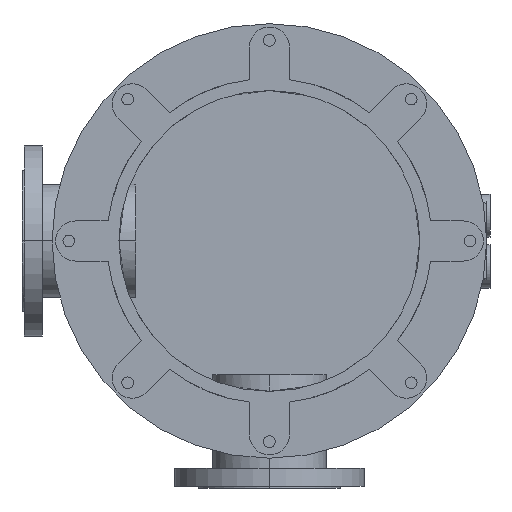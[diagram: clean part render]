
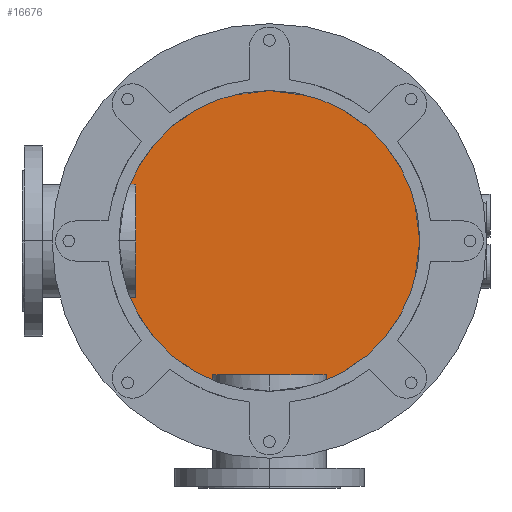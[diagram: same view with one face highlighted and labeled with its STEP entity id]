
A CAD part, front view. The second image highlights one B-rep face of the part: STEP entity #16676.
In plain terms, the highlighted planar face has unit normal (0, -1, 0).
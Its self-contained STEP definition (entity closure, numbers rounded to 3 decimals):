
#3082=CARTESIAN_POINT('',(0.,1172.,0.));
#3083=DIRECTION('',(0.,-1.,0.));
#3084=DIRECTION('',(0.,0.,1.));
#3085=AXIS2_PLACEMENT_3D('',#3082,#3083,#3084);
#3273=CARTESIAN_POINT('',(0.,1172.,0.));
#3274=DIRECTION('',(0.,-1.,0.));
#3275=DIRECTION('',(0.,0.,-1.));
#3276=AXIS2_PLACEMENT_3D('',#3273,#3274,#3275);
#9171=CARTESIAN_POINT('',(0.,1172.,240.));
#9172=CARTESIAN_POINT('',(0.,1172.,-240.));
#9173=VERTEX_POINT('',#9171);
#9174=VERTEX_POINT('',#9172);
#16667=CARTESIAN_POINT('',(0.,1172.,0.));
#16668=DIRECTION('',(0.,1.,0.));
#16669=DIRECTION('',(0.,0.,-1.));
#16670=AXIS2_PLACEMENT_3D('',#16667,#16668,#16669);
#16671=PLANE('',#16670);
#16672=ORIENTED_EDGE('',*,*,#14780,.F.);
#16673=ORIENTED_EDGE('',*,*,#14906,.F.);
#16674=EDGE_LOOP('',(#16672,#16673));
#16675=FACE_OUTER_BOUND('',#16674,.F.);
#16676=ADVANCED_FACE('',(#16675),#16671,.F.);
#3086=CIRCLE('',#3085,240.);
#3277=CIRCLE('',#3276,240.);
#14780=EDGE_CURVE('',#9173,#9174,#3086,.T.);
#14906=EDGE_CURVE('',#9174,#9173,#3277,.T.);
